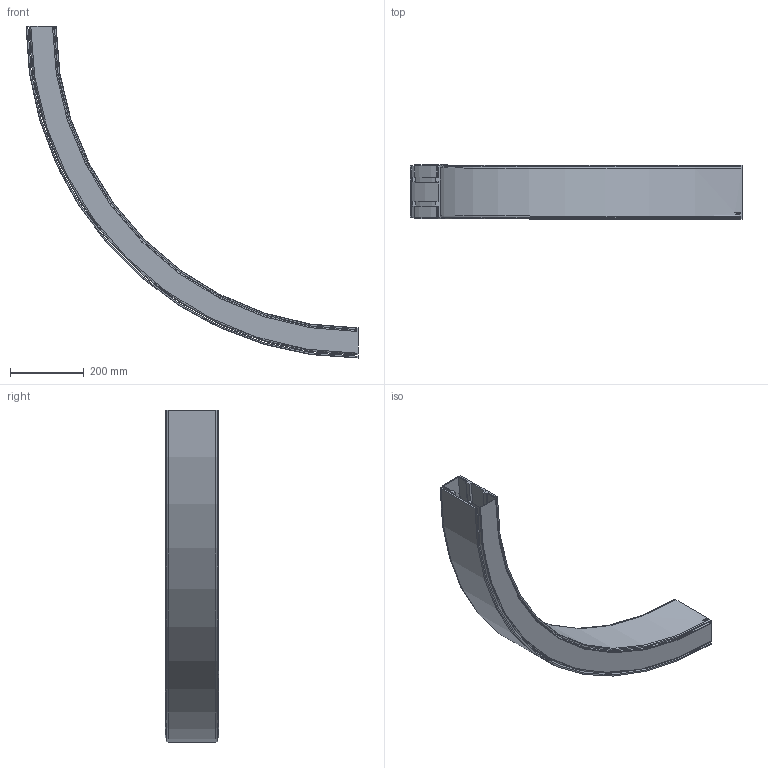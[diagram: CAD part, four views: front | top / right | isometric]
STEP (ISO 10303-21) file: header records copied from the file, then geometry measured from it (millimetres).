
FILE_DESCRIPTION(/* description */ ('VERTIKALKURVA S540 R860'),/* implementation_level */ '2;1');
FILE_NAME(/* name */ '540-5695+140-2000-UPP-01.stp',/* time_stamp */ '2022-09-21T11:19:08+02:00',/* author */ ('Mathias.Dore'),/* organization */ ('CARRYLINE'),/* preprocessor_version */ 'ST-DEVELOPER v19.2',/* originating_system */ 'Autodesk Inventor 2023',/* authorisation */ '');
FILE_SCHEMA (('AUTOMOTIVE_DESIGN { 1 0 10303 214 3 1 1 }'));
Length unit declared in the file: millimetre
Products named in the file (1): 540-5695+140-2000-UPP-01
Bounding box: 902.5 x 146 x 902.5 mm (x, y, z)
Volume: 3102966.8 mm3; surface area: 1612115 mm2
Topology: 2 solids, 2 shells, 87 faces, 234 edges, 156 vertices
Faces by surface type: plane 40, cylinder 25, bspline 14, cone 4, torus 4
Entity records: 7369 total; most frequent: CARTESIAN_POINT 5170, ORIENTED_EDGE 468, DIRECTION 408, EDGE_CURVE 234, VERTEX_POINT 156, AXIS2_PLACEMENT_3D 141, LINE 126, VECTOR 126
